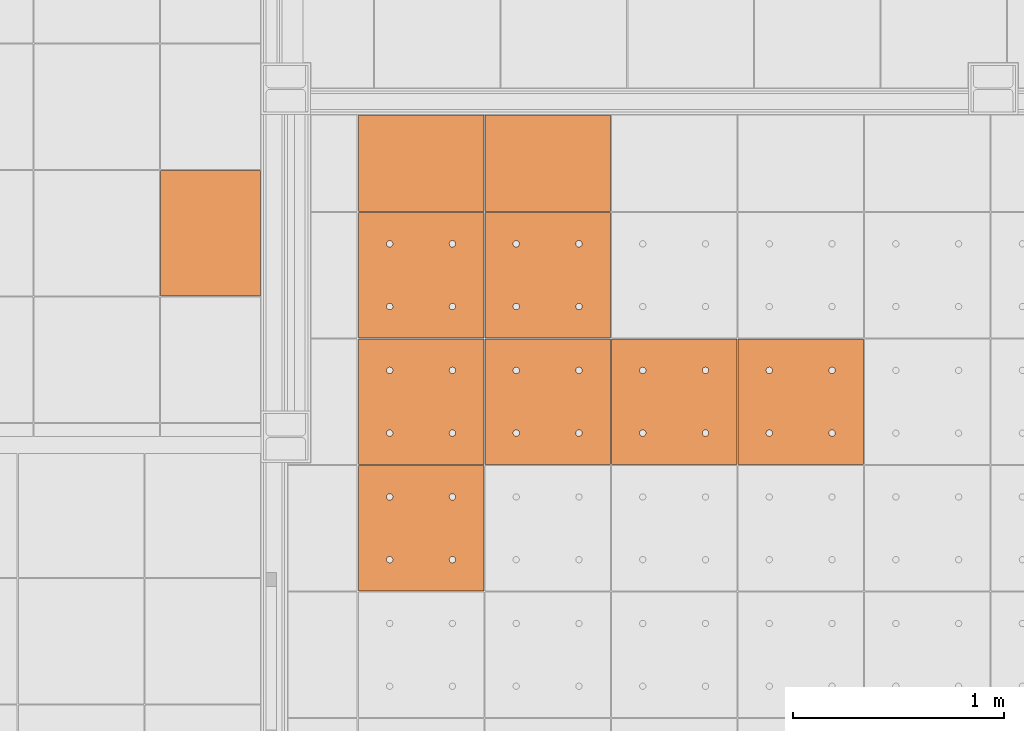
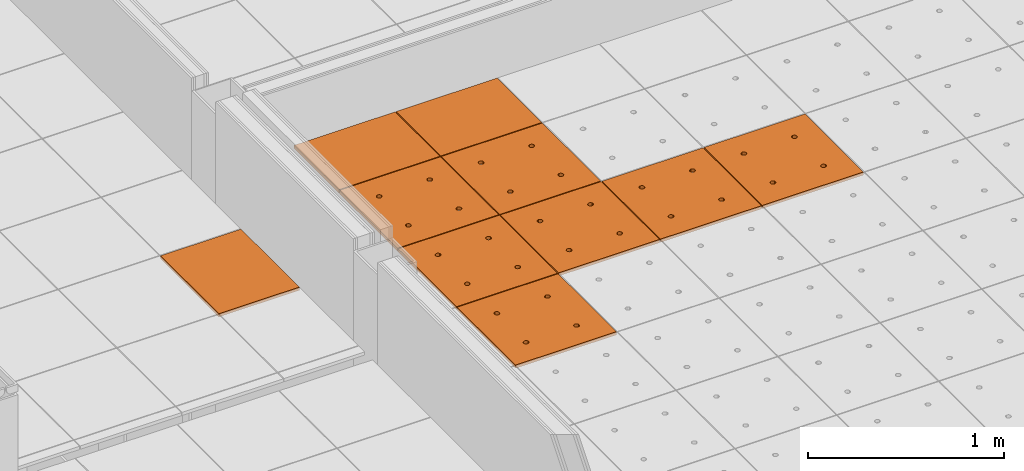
# One storey, part 257 of 338: 10 proxies, 2 elements without a shape of their own.
"""IFC2X3 building model written with IfcOpenShell, lengths in millimetres."""

from ifc_helpers import new_model, entity, si_unit, converted_unit, derived_unit, money_unit, direction, frame, origin_with_axes, place, context, subcontext, project, spatial, faceted_brep, source, transform, mapped, material, type_object, type_shapes, element, aggregate, save


model = new_model("IFC2X3")

# Units and contexts
model_context = context("Model", 3, precision=0.01, world=origin_with_axes(), true_north=direction((0.0, 1.0)))
plan_context = context("Plan", 3, precision=0.01, world=origin_with_axes(), true_north=direction((0.0, 1.0)))
body_context = subcontext(model_context, "Body", "Model", "MODEL_VIEW")
ifc_project = project(units=[si_unit("LENGTHUNIT", "METRE", prefix="MILLI"), si_unit("AREAUNIT", "SQUARE_METRE"), si_unit("VOLUMEUNIT", "CUBIC_METRE"), converted_unit("PLANEANGLEUNIT", "DEGREE", entity("IfcPlaneAngleMeasure", 0.0174532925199), si_unit("PLANEANGLEUNIT", "RADIAN"), dimensions=[0, 0, 0, 0, 0, 0, 0]), money_unit("EUR"), converted_unit("TIMEUNIT", "Year", entity("IfcTimeMeasure", 31556926.0), si_unit("TIMEUNIT", "SECOND"), dimensions=[0, 0, 1, 0, 0, 0, 0]), si_unit("MASSUNIT", "GRAM", prefix="KILO"), si_unit("THERMODYNAMICTEMPERATUREUNIT", "DEGREE_CELSIUS"), si_unit("LUMINOUSINTENSITYUNIT", "LUMEN"), si_unit("ENERGYUNIT", "JOULE", prefix="MEGA"), derived_unit("THERMALCONDUCTANCEUNIT", [(si_unit("POWERUNIT", "WATT"), 1), (si_unit("LENGTHUNIT", "METRE"), -1), (si_unit("THERMODYNAMICTEMPERATUREUNIT", "KELVIN"), -1)]), derived_unit("SPECIFICHEATCAPACITYUNIT", [(si_unit("ENERGYUNIT", "JOULE"), 1), (si_unit("MASSUNIT", "GRAM", prefix="KILO"), -1), (si_unit("THERMODYNAMICTEMPERATUREUNIT", "KELVIN"), -1)]), derived_unit("MASSDENSITYUNIT", [(si_unit("MASSUNIT", "GRAM", prefix="KILO"), 1), (si_unit("VOLUMEUNIT", "CUBIC_METRE"), -1)])], contexts=[model_context, plan_context])

# Site, building, storey
site_placement = place(None, origin_with_axes())
site = spatial("IfcSite", under=ifc_project, at=site_placement, Name="Fortuinstraat Woensdrecht", CompositionType="ELEMENT")
building_placement = place(site_placement, origin_with_axes())
building = spatial("IfcBuilding", under=site, at=building_placement, Name="IKC Fortuna", CompositionType="ELEMENT")
storey_placement = place(building_placement, origin_with_axes())
storey = spatial("IfcBuildingStorey", under=building, at=storey_placement, Name="00 begane grond", CompositionType="ELEMENT", Elevation=0.0)

# Covering, proxies
covering_type = type_object("IfcCoveringType", Name="Curtain Wall Type", PredefinedType="CEILING")
covering_1_placement = place(storey_placement, frame((31656.9226967, 15748.5304598, 3210.0), z_axis=(0.0, 0.0, 1.0), x_axis=(1.0, 0.0, 0.0)))
covering_1 = element("IfcCovering", 1, at=covering_1_placement, inside=storey, type_object=covering_type, Name="45_Plafondafwerking_P01", PredefinedType="CEILING")
ifc_material = material(Name="Gipsplaat")
building_element_proxy_type_1 = type_object("IfcBuildingElementProxyType", Name="Main Panel 600 x 600 x 20", PredefinedType="NOTDEFINED")
shared_shape_1 = source(origin_with_axes(), body_context, "Body", "Brep", [
    faceted_brep([(2.49999999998, 2.49999999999, -10.0), (300.0, 2.49999999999, -10.0), (300.0, 2.49999999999, 10.0), (2.49999999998, 2.49999999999, 10.0), (2.49999999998, 300.0, -10.0), (2.49999999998, 597.5, -10.0), (300.0, 597.5, -10.0), (597.5, 597.5, -10.0), (597.5, 300.0, -10.0), (597.5, 2.49999999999, -10.0), (166.25, 450.06232995, -10.0), (165.79423259, 452.64711538, -10.0), (164.896546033, 455.11348892, -10.0), (163.58421608, 457.38651108, -10.0), (161.897117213, 459.39711721, -10.0), (159.886511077, 461.08421608, -10.0), (157.613488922, 462.39654603, -10.0), (155.147115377, 463.29423259, -10.0), (152.562329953, 463.75, -10.0), (149.937670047, 463.75, -10.0), (147.352884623, 463.29423259, -10.0), (144.886511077, 462.39654603, -10.0), (142.613488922, 461.08421608, -10.0), (140.602882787, 459.39711721, -10.0), (138.91578392, 457.38651108, -10.0), (137.603453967, 455.11348892, -10.0), (136.705767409, 452.64711538, -10.0), (136.25, 450.06232995, -10.0), (136.25, 448.75, -10.0), (136.25, 447.43767005, -10.0), (136.705767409, 444.85288462, -10.0), (137.603453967, 442.38651108, -10.0), (138.91578392, 440.11348892, -10.0), (140.602882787, 438.10288279, -10.0), (142.613488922, 436.41578392, -10.0), (144.886511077, 435.10345397, -10.0), (147.352884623, 434.20576741, -10.0), (149.937670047, 433.75, -10.0), (152.562329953, 433.75, -10.0), (155.147115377, 434.20576741, -10.0), (157.613488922, 435.10345397, -10.0), (159.886511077, 436.41578392, -10.0), (161.897117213, 438.10288279, -10.0), (163.58421608, 440.11348892, -10.0), (164.896546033, 442.38651108, -10.0), (165.79423259, 444.85288462, -10.0), (166.25, 447.43767005, -10.0), (463.75, 450.06232995, -10.0), (463.29423259, 452.64711538, -10.0), (462.396546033, 455.11348892, -10.0), (461.08421608, 457.38651108, -10.0), (459.397117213, 459.39711721, -10.0), (457.386511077, 461.08421608, -10.0), (455.113488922, 462.39654603, -10.0), (452.647115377, 463.29423259, -10.0), (450.062329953, 463.75, -10.0), (447.437670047, 463.75, -10.0), (444.852884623, 463.29423259, -10.0), (442.386511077, 462.39654603, -10.0), (440.113488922, 461.08421608, -10.0), (438.102882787, 459.39711721, -10.0), (436.41578392, 457.38651108, -10.0), (435.103453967, 455.11348892, -10.0), (434.205767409, 452.64711538, -10.0), (433.75, 450.06232995, -10.0), (433.75, 448.75, -10.0), (433.75, 447.43767005, -10.0), (434.205767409, 444.85288462, -10.0), (435.103453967, 442.38651108, -10.0), (436.41578392, 440.11348892, -10.0), (438.102882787, 438.10288279, -10.0), (440.113488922, 436.41578392, -10.0), (442.386511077, 435.10345397, -10.0), (444.852884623, 434.20576741, -10.0), (447.437670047, 433.75, -10.0), (450.062329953, 433.75, -10.0), (452.647115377, 434.20576741, -10.0), (455.113488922, 435.10345397, -10.0), (457.386511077, 436.41578392, -10.0), (459.397117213, 438.10288279, -10.0), (461.08421608, 440.11348892, -10.0), (462.396546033, 442.38651108, -10.0), (463.29423259, 444.85288462, -10.0), (463.75, 447.43767005, -10.0), (463.75, 152.56232995, -10.0), (463.29423259, 155.14711538, -10.0), (462.396546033, 157.61348892, -10.0), (461.08421608, 159.88651108, -10.0), (459.397117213, 161.89711721, -10.0), (457.386511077, 163.58421608, -10.0), (455.113488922, 164.89654603, -10.0), (452.647115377, 165.79423259, -10.0), (450.062329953, 166.25, -10.0), (447.437670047, 166.25, -10.0), (444.852884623, 165.79423259, -10.0), (442.386511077, 164.89654603, -10.0), (440.113488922, 163.58421608, -10.0), (438.102882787, 161.89711721, -10.0), (436.41578392, 159.88651108, -10.0), (435.103453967, 157.61348892, -10.0), (434.205767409, 155.14711538, -10.0), (433.75, 152.56232995, -10.0), (433.75, 151.25, -10.0), (433.75, 149.93767005, -10.0), (434.205767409, 147.35288462, -10.0), (435.103453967, 144.88651108, -10.0), (436.41578392, 142.61348892, -10.0), (438.102882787, 140.60288279, -10.0), (440.113488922, 138.91578392, -10.0), (442.386511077, 137.60345397, -10.0), (444.852884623, 136.70576741, -10.0), (447.437670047, 136.25, -10.0), (450.062329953, 136.25, -10.0), (452.647115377, 136.70576741, -10.0), (455.113488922, 137.60345397, -10.0), (457.386511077, 138.91578392, -10.0), (459.397117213, 140.60288279, -10.0), (461.08421608, 142.61348892, -10.0), (462.396546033, 144.88651108, -10.0), (463.29423259, 147.35288462, -10.0), (463.75, 149.93767005, -10.0), (166.25, 152.56232995, -10.0), (165.79423259, 155.14711538, -10.0), (164.896546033, 157.61348892, -10.0), (163.58421608, 159.88651108, -10.0), (161.897117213, 161.89711721, -10.0), (159.886511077, 163.58421608, -10.0), (157.613488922, 164.89654603, -10.0), (155.147115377, 165.79423259, -10.0), (152.562329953, 166.25, -10.0), (149.937670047, 166.25, -10.0), (147.352884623, 165.79423259, -10.0), (144.886511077, 164.89654603, -10.0), (142.613488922, 163.58421608, -10.0), (140.602882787, 161.89711721, -10.0), (138.91578392, 159.88651108, -10.0), (137.603453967, 157.61348892, -10.0), (136.705767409, 155.14711538, -10.0), (136.25, 152.56232995, -10.0), (136.25, 151.25, -10.0), (136.25, 149.93767005, -10.0), (136.705767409, 147.35288462, -10.0), (137.603453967, 144.88651108, -10.0), (138.91578392, 142.61348892, -10.0), (140.602882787, 140.60288279, -10.0), (142.613488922, 138.91578392, -10.0), (144.886511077, 137.60345397, -10.0), (147.352884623, 136.70576741, -10.0), (149.937670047, 136.25, -10.0), (152.562329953, 136.25, -10.0), (155.147115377, 136.70576741, -10.0), (157.613488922, 137.60345397, -10.0), (159.886511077, 138.91578392, -10.0), (161.897117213, 140.60288279, -10.0), (163.58421608, 142.61348892, -10.0), (164.896546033, 144.88651108, -10.0), (165.79423259, 147.35288462, -10.0), (166.25, 149.93767005, -10.0), (597.5, 2.49999999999, 10.0), (597.5, 300.0, 10.0), (597.5, 597.5, 10.0), (300.0, 597.5, 10.0), (2.49999999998, 597.5, 10.0), (2.49999999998, 300.0, 10.0), (166.25, 450.06232995, 10.0), (166.25, 447.43767005, 10.0), (165.79423259, 444.85288462, 10.0), (164.896546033, 442.38651108, 10.0), (163.58421608, 440.11348892, 10.0), (161.897117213, 438.10288279, 10.0), (159.886511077, 436.41578392, 10.0), (157.613488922, 435.10345397, 10.0), (155.147115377, 434.20576741, 10.0), (152.562329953, 433.75, 10.0), (149.937670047, 433.75, 10.0), (147.352884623, 434.20576741, 10.0), (144.886511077, 435.10345397, 10.0), (142.613488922, 436.41578392, 10.0), (140.602882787, 438.10288279, 10.0), (138.91578392, 440.11348892, 10.0), (137.603453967, 442.38651108, 10.0), (136.705767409, 444.85288462, 10.0), (136.25, 447.43767005, 10.0), (136.25, 448.75, 10.0), (136.25, 450.06232995, 10.0), (136.705767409, 452.64711538, 10.0), (137.603453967, 455.11348892, 10.0), (138.91578392, 457.38651108, 10.0), (140.602882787, 459.39711721, 10.0), (142.613488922, 461.08421608, 10.0), (144.886511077, 462.39654603, 10.0), (147.352884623, 463.29423259, 10.0), (149.937670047, 463.75, 10.0), (152.562329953, 463.75, 10.0), (155.147115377, 463.29423259, 10.0), (157.613488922, 462.39654603, 10.0), (159.886511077, 461.08421608, 10.0), (161.897117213, 459.39711721, 10.0), (163.58421608, 457.38651108, 10.0), (164.896546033, 455.11348892, 10.0), (165.79423259, 452.64711538, 10.0), (463.75, 450.06232995, 10.0), (463.75, 447.43767005, 10.0), (463.29423259, 444.85288462, 10.0), (462.396546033, 442.38651108, 10.0), (461.08421608, 440.11348892, 10.0), (459.397117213, 438.10288279, 10.0), (457.386511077, 436.41578392, 10.0), (455.113488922, 435.10345397, 10.0), (452.647115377, 434.20576741, 10.0), (450.062329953, 433.75, 10.0), (447.437670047, 433.75, 10.0), (444.852884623, 434.20576741, 10.0), (442.386511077, 435.10345397, 10.0), (440.113488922, 436.41578392, 10.0), (438.102882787, 438.10288279, 10.0), (436.41578392, 440.11348892, 10.0), (435.103453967, 442.38651108, 10.0), (434.205767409, 444.85288462, 10.0), (433.75, 447.43767005, 10.0), (433.75, 448.75, 10.0), (433.75, 450.06232995, 10.0), (434.205767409, 452.64711538, 10.0), (435.103453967, 455.11348892, 10.0), (436.41578392, 457.38651108, 10.0), (438.102882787, 459.39711721, 10.0), (440.113488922, 461.08421608, 10.0), (442.386511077, 462.39654603, 10.0), (444.852884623, 463.29423259, 10.0), (447.437670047, 463.75, 10.0), (450.062329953, 463.75, 10.0), (452.647115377, 463.29423259, 10.0), (455.113488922, 462.39654603, 10.0), (457.386511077, 461.08421608, 10.0), (459.397117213, 459.39711721, 10.0), (461.08421608, 457.38651108, 10.0), (462.396546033, 455.11348892, 10.0), (463.29423259, 452.64711538, 10.0), (463.75, 152.56232995, 10.0), (463.75, 149.93767005, 10.0), (463.29423259, 147.35288462, 10.0), (462.396546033, 144.88651108, 10.0), (461.08421608, 142.61348892, 10.0), (459.397117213, 140.60288279, 10.0), (457.386511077, 138.91578392, 10.0), (455.113488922, 137.60345397, 10.0), (452.647115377, 136.70576741, 10.0), (450.062329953, 136.25, 10.0), (447.437670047, 136.25, 10.0), (444.852884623, 136.70576741, 10.0), (442.386511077, 137.60345397, 10.0), (440.113488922, 138.91578392, 10.0), (438.102882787, 140.60288279, 10.0), (436.41578392, 142.61348892, 10.0), (435.103453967, 144.88651108, 10.0), (434.205767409, 147.35288462, 10.0), (433.75, 149.93767005, 10.0), (433.75, 151.25, 10.0), (433.75, 152.56232995, 10.0), (434.205767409, 155.14711538, 10.0), (435.103453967, 157.61348892, 10.0), (436.41578392, 159.88651108, 10.0), (438.102882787, 161.89711721, 10.0), (440.113488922, 163.58421608, 10.0), (442.386511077, 164.89654603, 10.0), (444.852884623, 165.79423259, 10.0), (447.437670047, 166.25, 10.0), (450.062329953, 166.25, 10.0), (452.647115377, 165.79423259, 10.0), (455.113488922, 164.89654603, 10.0), (457.386511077, 163.58421608, 10.0), (459.397117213, 161.89711721, 10.0), (461.08421608, 159.88651108, 10.0), (462.396546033, 157.61348892, 10.0), (463.29423259, 155.14711538, 10.0), (166.25, 152.56232995, 10.0), (166.25, 149.93767005, 10.0), (165.79423259, 147.35288462, 10.0), (164.896546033, 144.88651108, 10.0), (163.58421608, 142.61348892, 10.0), (161.897117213, 140.60288279, 10.0), (159.886511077, 138.91578392, 10.0), (157.613488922, 137.60345397, 10.0), (155.147115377, 136.70576741, 10.0), (152.562329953, 136.25, 10.0), (149.937670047, 136.25, 10.0), (147.352884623, 136.70576741, 10.0), (144.886511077, 137.60345397, 10.0), (142.613488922, 138.91578392, 10.0), (140.602882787, 140.60288279, 10.0), (138.91578392, 142.61348892, 10.0), (137.603453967, 144.88651108, 10.0), (136.705767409, 147.35288462, 10.0), (136.25, 149.93767005, 10.0), (136.25, 151.25, 10.0), (136.25, 152.56232995, 10.0), (136.705767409, 155.14711538, 10.0), (137.603453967, 157.61348892, 10.0), (138.91578392, 159.88651108, 10.0), (140.602882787, 161.89711721, 10.0), (142.613488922, 163.58421608, 10.0), (144.886511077, 164.89654603, 10.0), (147.352884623, 165.79423259, 10.0), (149.937670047, 166.25, 10.0), (152.562329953, 166.25, 10.0), (155.147115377, 165.79423259, 10.0), (157.613488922, 164.89654603, 10.0), (159.886511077, 163.58421608, 10.0), (161.897117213, 161.89711721, 10.0), (163.58421608, 159.88651108, 10.0), (164.896546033, 157.61348892, 10.0), (165.79423259, 155.14711538, 10.0)], [[[0, 1, 2, 3]], [[0, 4, 5, 6, 7, 8, 9, 1], [10, 11, 12, 13, 14, 15, 16, 17, 18, 19, 20, 21, 22, 23, 24, 25, 26, 27, 28, 29, 30, 31, 32, 33, 34, 35, 36, 37, 38, 39, 40, 41, 42, 43, 44, 45, 46], [47, 48, 49, 50, 51, 52, 53, 54, 55, 56, 57, 58, 59, 60, 61, 62, 63, 64, 65, 66, 67, 68, 69, 70, 71, 72, 73, 74, 75, 76, 77, 78, 79, 80, 81, 82, 83], [84, 85, 86, 87, 88, 89, 90, 91, 92, 93, 94, 95, 96, 97, 98, 99, 100, 101, 102, 103, 104, 105, 106, 107, 108, 109, 110, 111, 112, 113, 114, 115, 116, 117, 118, 119, 120], [121, 122, 123, 124, 125, 126, 127, 128, 129, 130, 131, 132, 133, 134, 135, 136, 137, 138, 139, 140, 141, 142, 143, 144, 145, 146, 147, 148, 149, 150, 151, 152, 153, 154, 155, 156, 157]], [[1, 9, 158, 2]], [[3, 2, 158, 159, 160, 161, 162, 163], [164, 165, 166, 167, 168, 169, 170, 171, 172, 173, 174, 175, 176, 177, 178, 179, 180, 181, 182, 183, 184, 185, 186, 187, 188, 189, 190, 191, 192, 193, 194, 195, 196, 197, 198, 199, 200], [201, 202, 203, 204, 205, 206, 207, 208, 209, 210, 211, 212, 213, 214, 215, 216, 217, 218, 219, 220, 221, 222, 223, 224, 225, 226, 227, 228, 229, 230, 231, 232, 233, 234, 235, 236, 237], [238, 239, 240, 241, 242, 243, 244, 245, 246, 247, 248, 249, 250, 251, 252, 253, 254, 255, 256, 257, 258, 259, 260, 261, 262, 263, 264, 265, 266, 267, 268, 269, 270, 271, 272, 273, 274], [275, 276, 277, 278, 279, 280, 281, 282, 283, 284, 285, 286, 287, 288, 289, 290, 291, 292, 293, 294, 295, 296, 297, 298, 299, 300, 301, 302, 303, 304, 305, 306, 307, 308, 309, 310, 311]], [[4, 0, 3, 163]], [[5, 4, 163, 162]], [[6, 5, 162, 161]], [[7, 6, 161, 160]], [[8, 7, 160, 159]], [[9, 8, 159, 158]], [[11, 10, 164, 200]], [[12, 11, 200, 199]], [[13, 12, 199, 198]], [[14, 13, 198, 197]], [[15, 14, 197, 196]], [[16, 15, 196, 195]], [[17, 16, 195, 194]], [[18, 17, 194, 193]], [[19, 18, 193, 192]], [[20, 19, 192, 191]], [[21, 20, 191, 190]], [[22, 21, 190, 189]], [[23, 22, 189, 188]], [[24, 23, 188, 187]], [[25, 24, 187, 186]], [[26, 25, 186, 185]], [[27, 26, 185, 184]], [[28, 27, 184, 183]], [[29, 28, 183, 182]], [[30, 29, 182, 181]], [[31, 30, 181, 180]], [[32, 31, 180, 179]], [[33, 32, 179, 178]], [[34, 33, 178, 177]], [[35, 34, 177, 176]], [[36, 35, 176, 175]], [[37, 36, 175, 174]], [[38, 37, 174, 173]], [[39, 38, 173, 172]], [[40, 39, 172, 171]], [[41, 40, 171, 170]], [[42, 41, 170, 169]], [[43, 42, 169, 168]], [[44, 43, 168, 167]], [[45, 44, 167, 166]], [[46, 45, 166, 165]], [[10, 46, 165, 164]], [[48, 47, 201, 237]], [[49, 48, 237, 236]], [[50, 49, 236, 235]], [[51, 50, 235, 234]], [[52, 51, 234, 233]], [[53, 52, 233, 232]], [[54, 53, 232, 231]], [[55, 54, 231, 230]], [[56, 55, 230, 229]], [[57, 56, 229, 228]], [[58, 57, 228, 227]], [[59, 58, 227, 226]], [[60, 59, 226, 225]], [[61, 60, 225, 224]], [[62, 61, 224, 223]], [[63, 62, 223, 222]], [[64, 63, 222, 221]], [[65, 64, 221, 220]], [[66, 65, 220, 219]], [[67, 66, 219, 218]], [[68, 67, 218, 217]], [[69, 68, 217, 216]], [[70, 69, 216, 215]], [[71, 70, 215, 214]], [[72, 71, 214, 213]], [[73, 72, 213, 212]], [[74, 73, 212, 211]], [[75, 74, 211, 210]], [[76, 75, 210, 209]], [[77, 76, 209, 208]], [[78, 77, 208, 207]], [[79, 78, 207, 206]], [[80, 79, 206, 205]], [[81, 80, 205, 204]], [[82, 81, 204, 203]], [[83, 82, 203, 202]], [[47, 83, 202, 201]], [[85, 84, 238, 274]], [[86, 85, 274, 273]], [[87, 86, 273, 272]], [[88, 87, 272, 271]], [[89, 88, 271, 270]], [[90, 89, 270, 269]], [[91, 90, 269, 268]], [[92, 91, 268, 267]], [[93, 92, 267, 266]], [[94, 93, 266, 265]], [[95, 94, 265, 264]], [[96, 95, 264, 263]], [[97, 96, 263, 262]], [[98, 97, 262, 261]], [[99, 98, 261, 260]], [[100, 99, 260, 259]], [[101, 100, 259, 258]], [[102, 101, 258, 257]], [[103, 102, 257, 256]], [[104, 103, 256, 255]], [[105, 104, 255, 254]], [[106, 105, 254, 253]], [[107, 106, 253, 252]], [[108, 107, 252, 251]], [[109, 108, 251, 250]], [[110, 109, 250, 249]], [[111, 110, 249, 248]], [[112, 111, 248, 247]], [[113, 112, 247, 246]], [[114, 113, 246, 245]], [[115, 114, 245, 244]], [[116, 115, 244, 243]], [[117, 116, 243, 242]], [[118, 117, 242, 241]], [[119, 118, 241, 240]], [[120, 119, 240, 239]], [[84, 120, 239, 238]], [[122, 121, 275, 311]], [[123, 122, 311, 310]], [[124, 123, 310, 309]], [[125, 124, 309, 308]], [[126, 125, 308, 307]], [[127, 126, 307, 306]], [[128, 127, 306, 305]], [[129, 128, 305, 304]], [[130, 129, 304, 303]], [[131, 130, 303, 302]], [[132, 131, 302, 301]], [[133, 132, 301, 300]], [[134, 133, 300, 299]], [[135, 134, 299, 298]], [[136, 135, 298, 297]], [[137, 136, 297, 296]], [[138, 137, 296, 295]], [[139, 138, 295, 294]], [[140, 139, 294, 293]], [[141, 140, 293, 292]], [[142, 141, 292, 291]], [[143, 142, 291, 290]], [[144, 143, 290, 289]], [[145, 144, 289, 288]], [[146, 145, 288, 287]], [[147, 146, 287, 286]], [[148, 147, 286, 285]], [[149, 148, 285, 284]], [[150, 149, 284, 283]], [[151, 150, 283, 282]], [[152, 151, 282, 281]], [[153, 152, 281, 280]], [[154, 153, 280, 279]], [[155, 154, 279, 278]], [[156, 155, 278, 277]], [[157, 156, 277, 276]], [[121, 157, 276, 275]]]),
])
type_shapes(building_element_proxy_type_1, [shared_shape_1])
proxy_1_placement = place(covering_1_placement, frame((-5400.0, -1.42108547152e-10, 2.73114864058e-10), z_axis=(0.0, 0.0, 1.0), x_axis=(1.0, 0.0, 0.0)))
proxy_1 = element("IfcBuildingElementProxy", 2, at=proxy_1_placement, type_object=building_element_proxy_type_1, material=ifc_material, Name="__600x624 Rockfon Krios", context=body_context, shape_type="MappedRepresentation", body=[
    mapped(shared_shape_1, transform((300.0, 300.0, 0.0), x_axis=(-1.0, 0.0, 0.0), y_axis=(0.0, -1.0, 0.0), z_axis=(0.0, 0.0, 1.0))),
])
proxy_2_placement = place(covering_1_placement, frame((-5400.0, 1200.0, 2.73114864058e-10), z_axis=(0.0, 0.0, 1.0), x_axis=(1.0, 0.0, 0.0)))
proxy_2 = element("IfcBuildingElementProxy", 3, at=proxy_2_placement, type_object=building_element_proxy_type_1, material=ifc_material, Name="__600x631 Rockfon Krios", context=body_context, shape_type="MappedRepresentation", body=[
    mapped(shared_shape_1, transform((300.0, 300.0, 0.0), x_axis=(-1.0, 0.0, 0.0), y_axis=(0.0, -1.0, 0.0), z_axis=(0.0, 0.0, 1.0))),
])
proxy_3_placement = place(covering_1_placement, frame((-5400.0, 600.0, 2.73114864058e-10), z_axis=(0.0, 0.0, 1.0), x_axis=(1.0, 0.0, 0.0)))
proxy_3 = element("IfcBuildingElementProxy", 4, at=proxy_3_placement, type_object=building_element_proxy_type_1, material=ifc_material, Name="__600x633 Rockfon Krios", context=body_context, shape_type="MappedRepresentation", body=[
    mapped(shared_shape_1, transform((300.0, 300.0, 0.0), x_axis=(-1.0, 0.0, 0.0), y_axis=(0.0, -1.0, 0.0), z_axis=(0.0, 0.0, 1.0))),
])
proxy_4_placement = place(covering_1_placement, frame((-4800.0, 600.0, 2.53574938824e-10), z_axis=(0.0, 0.0, 1.0), x_axis=(1.0, 0.0, 0.0)))
proxy_4 = element("IfcBuildingElementProxy", 5, at=proxy_4_placement, type_object=building_element_proxy_type_1, material=ifc_material, Name="__600x638 Rockfon Krios", context=body_context, shape_type="MappedRepresentation", body=[
    mapped(shared_shape_1, transform((300.0, 300.0, 0.0), x_axis=(-1.0, 0.0, 0.0), y_axis=(0.0, -1.0, 0.0), z_axis=(0.0, 0.0, 1.0))),
])
proxy_5_placement = place(covering_1_placement, frame((-3600.0, 600.0, 2.14495088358e-10), z_axis=(0.0, 0.0, 1.0), x_axis=(1.0, 0.0, 0.0)))
proxy_5 = element("IfcBuildingElementProxy", 6, at=proxy_5_placement, type_object=building_element_proxy_type_1, material=ifc_material, Name="__600x656 Rockfon Krios", context=body_context, shape_type="MappedRepresentation", body=[
    mapped(shared_shape_1, transform((300.0, 300.0, 0.0), x_axis=(-1.0, 0.0, 0.0), y_axis=(0.0, -1.0, 0.0), z_axis=(0.0, 0.0, 1.0))),
])
proxy_6_placement = place(covering_1_placement, frame((-4200.0, 600.0, 2.34035013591e-10), z_axis=(0.0, 0.0, 1.0), x_axis=(1.0, 0.0, 0.0)))
proxy_6 = element("IfcBuildingElementProxy", 7, at=proxy_6_placement, type_object=building_element_proxy_type_1, material=ifc_material, Name="__600x660 Rockfon Krios", context=body_context, shape_type="MappedRepresentation", body=[
    mapped(shared_shape_1, transform((300.0, 300.0, 0.0), x_axis=(-1.0, 0.0, 0.0), y_axis=(0.0, -1.0, 0.0), z_axis=(0.0, 0.0, 1.0))),
])
proxy_7_placement = place(covering_1_placement, frame((-4800.0, 1200.0, 2.53574938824e-10), z_axis=(0.0, 0.0, 1.0), x_axis=(1.0, 0.0, 0.0)))
proxy_7 = element("IfcBuildingElementProxy", 8, at=proxy_7_placement, type_object=building_element_proxy_type_1, material=ifc_material, Name="__600x663 Rockfon Krios", context=body_context, shape_type="MappedRepresentation", body=[
    mapped(shared_shape_1, transform((300.0, 300.0, 0.0), x_axis=(-1.0, 0.0, 0.0), y_axis=(0.0, -1.0, 0.0), z_axis=(0.0, 0.0, 1.0))),
])
building_element_proxy_type_2 = type_object("IfcBuildingElementProxyType", Name="600 x 461 x 20", PredefinedType="NOTDEFINED")
shared_shape_2 = source(origin_with_axes(), body_context, "Body", "Brep", [
    faceted_brep([(2.5, 141.233853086, -10.0), (597.5, 141.233853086, -10.0), (597.5, 141.233853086, 10.0), (2.5, 141.233853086, 10.0), (2.50000000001, 597.5, -10.0), (597.5, 597.5, -10.0), (597.5, 597.5, 10.0), (2.50000000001, 597.5, 10.0)], [[[0, 1, 2, 3]], [[0, 4, 5, 1]], [[1, 5, 6, 2]], [[3, 2, 6, 7]], [[4, 0, 3, 7]], [[5, 4, 7, 6]]]),
])
type_shapes(building_element_proxy_type_2, [shared_shape_2])
proxy_8_placement = place(covering_1_placement, frame((-4800.0, 1730.63307755, 2.53574938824e-10), z_axis=(0.0, 0.0, 1.0), x_axis=(1.0, 0.0, 0.0)))
proxy_8 = element("IfcBuildingElementProxy", 9, at=proxy_8_placement, type_object=building_element_proxy_type_2, material=ifc_material, Name="__600x620 Rockfon Krios", context=body_context, shape_type="MappedRepresentation", body=[
    mapped(shared_shape_2, transform((300.0, 369.366938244, 0.0), x_axis=(-1.0, 0.0, 0.0), y_axis=(0.0, -1.0, 0.0), z_axis=(0.0, 0.0, 1.0))),
])
proxy_9_placement = place(covering_1_placement, frame((-5400.0, 1730.63307755, 2.73114864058e-10), z_axis=(0.0, 0.0, 1.0), x_axis=(1.0, 0.0, 0.0)))
proxy_9 = element("IfcBuildingElementProxy", 10, at=proxy_9_placement, type_object=building_element_proxy_type_2, material=ifc_material, Name="__600x738 Rockfon Krios", context=body_context, shape_type="MappedRepresentation", body=[
    mapped(shared_shape_2, transform((300.0, 369.366938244, 0.0), x_axis=(-1.0, 0.0, 0.0), y_axis=(0.0, -1.0, 0.0), z_axis=(0.0, 0.0, 1.0))),
])
aggregate(covering_1, [proxy_8, proxy_1, proxy_2, proxy_3, proxy_4, proxy_5, proxy_6, proxy_7, proxy_9])

# Covering, proxy
covering_2_placement = place(storey_placement, frame((25258.7056243, 17147.3582181, 3010.0), z_axis=(0.0, 0.0, 1.0), x_axis=(1.0, 0.0, 0.0)))
covering_2 = element("IfcCovering", 11, at=covering_2_placement, inside=storey, type_object=covering_type, Name="45_Plafondafwerking_P04", PredefinedType="CEILING")
building_element_proxy_type_3 = type_object("IfcBuildingElementProxyType", Name="Distinct Panel 478 x 600 x 20", PredefinedType="NOTDEFINED")
shared_shape_3 = source(origin_with_axes(), body_context, "Body", "Brep", [
    faceted_brep([(-2.50000397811, 2.5, -10.0), (-2.50000397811, 2.5, 10.0), (-475.958688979, 2.49999999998, 10.0), (-475.958688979, 2.49999999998, -10.0), (-2.50000397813, 597.5, -10.0), (-2.50000397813, 597.5, 10.0), (-475.958688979, 597.5, 10.0), (-475.958688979, 597.5, -10.0)], [[[0, 1, 2, 3]], [[4, 5, 1, 0]], [[1, 5, 6, 2]], [[3, 2, 6, 7]], [[0, 3, 7, 4]], [[7, 6, 5, 4]]]),
])
type_shapes(building_element_proxy_type_3, [shared_shape_3])
proxy_10_placement = place(covering_2_placement, origin_with_axes())
proxy_10 = element("IfcBuildingElementProxy", 12, at=proxy_10_placement, type_object=building_element_proxy_type_3, material=ifc_material, Name="__Panel-D", context=body_context, shape_type="MappedRepresentation", body=[
    mapped(shared_shape_3, transform((-239.22934449, 300.0, 0.0), x_axis=(-1.0, 0.0, 0.0), y_axis=(0.0, -1.0, 0.0), z_axis=(0.0, 0.0, 1.0))),
])
aggregate(covering_2, [proxy_10])

save(model, "model.ifc")
